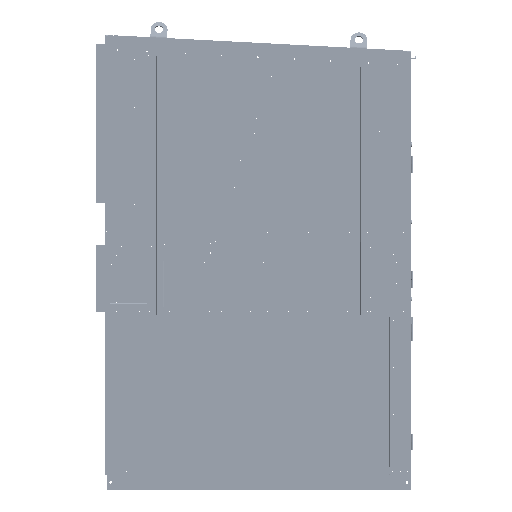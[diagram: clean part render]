
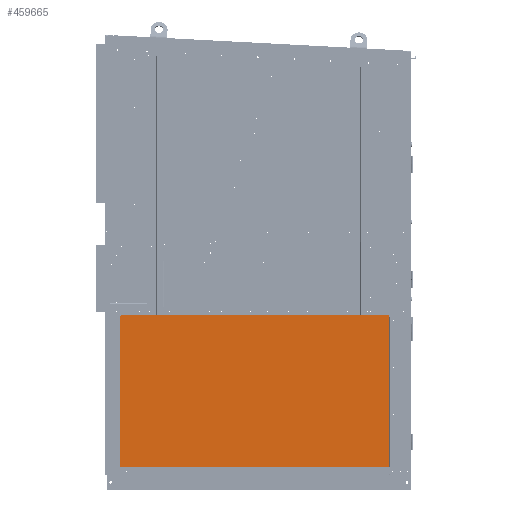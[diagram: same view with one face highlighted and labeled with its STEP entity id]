
A CAD part, left-side view. The second image highlights one B-rep face of the part: STEP entity #459665.
In plain terms, the highlighted planar face has unit normal (-1, 0, 0) as drawn and (1, 0, 0) by its records, which use the part's own axes.
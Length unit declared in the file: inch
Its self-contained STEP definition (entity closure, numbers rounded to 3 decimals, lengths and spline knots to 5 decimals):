
#5241 = LINE ( 'NONE', #299160, #187329 ) ;
#6849 = EDGE_CURVE ( 'NONE', #477414, #142327, #300425, .T. ) ;
#28355 = DIRECTION ( 'NONE',  ( 0., 0., 1. ) ) ;
#34091 = EDGE_CURVE ( 'NONE', #67805, #477414, #197459, .T. ) ;
#45467 = DIRECTION ( 'NONE',  ( 0., 0., -1. ) ) ;
#67805 = VERTEX_POINT ( 'NONE', #115142 ) ;
#114621 = AXIS2_PLACEMENT_3D ( 'NONE', #419217, #125313, #28355 ) ;
#115142 = CARTESIAN_POINT ( 'NONE',  ( -0.44192, 36., -1.5 ) ) ;
#125313 = DIRECTION ( 'NONE',  ( -1., 0., 0. ) ) ;
#142327 = VERTEX_POINT ( 'NONE', #458023 ) ;
#147233 = EDGE_LOOP ( 'NONE', ( #553257, #612260, #397522, #183942 ) ) ;
#150654 = DIRECTION ( 'NONE',  ( 0., -1., 0. ) ) ;
#154266 = CARTESIAN_POINT ( 'NONE',  ( -0.44192, 36., -65.5 ) ) ;
#183942 = ORIENTED_EDGE ( 'NONE', *, *, #34091, .T. ) ;
#187329 = VECTOR ( 'NONE', #150654, 39.37008 ) ;
#197459 = LINE ( 'NONE', #346108, #533096 ) ;
#204966 = EDGE_CURVE ( 'NONE', #565050, #142327, #5241, .T. ) ;
#245679 = VECTOR ( 'NONE', #419747, 39.37008 ) ;
#299160 = CARTESIAN_POINT ( 'NONE',  ( -0.44192, 36., -65.5 ) ) ;
#300368 = VECTOR ( 'NONE', #45467, 39.37008 ) ;
#300425 = LINE ( 'NONE', #536488, #300368 ) ;
#346108 = CARTESIAN_POINT ( 'NONE',  ( -0.44192, 36., -1.5 ) ) ;
#380902 = LINE ( 'NONE', #516700, #245679 ) ;
#397522 = ORIENTED_EDGE ( 'NONE', *, *, #613951, .F. ) ;
#419217 = CARTESIAN_POINT ( 'NONE',  ( -0.44192, 36., -1.5 ) ) ;
#419747 = DIRECTION ( 'NONE',  ( 0., 0., -1. ) ) ;
#458023 = CARTESIAN_POINT ( 'NONE',  ( -0.44192, 0., -65.5 ) ) ;
#459665 = ADVANCED_FACE ( 'NONE', ( #522540 ), #474048, .F. ) ;
#474048 = PLANE ( 'NONE',  #114621 ) ;
#477414 = VERTEX_POINT ( 'NONE', #579923 ) ;
#516700 = CARTESIAN_POINT ( 'NONE',  ( -0.44192, 36., -1.5 ) ) ;
#522540 = FACE_OUTER_BOUND ( 'NONE', #147233, .T. ) ;
#533096 = VECTOR ( 'NONE', #543145, 39.37008 ) ;
#536488 = CARTESIAN_POINT ( 'NONE',  ( -0.44192, 0., -1.5 ) ) ;
#543145 = DIRECTION ( 'NONE',  ( 0., -1., 0. ) ) ;
#553257 = ORIENTED_EDGE ( 'NONE', *, *, #6849, .T. ) ;
#565050 = VERTEX_POINT ( 'NONE', #154266 ) ;
#579923 = CARTESIAN_POINT ( 'NONE',  ( -0.44192, 0., -1.5 ) ) ;
#612260 = ORIENTED_EDGE ( 'NONE', *, *, #204966, .F. ) ;
#613951 = EDGE_CURVE ( 'NONE', #67805, #565050, #380902, .T. ) ;
